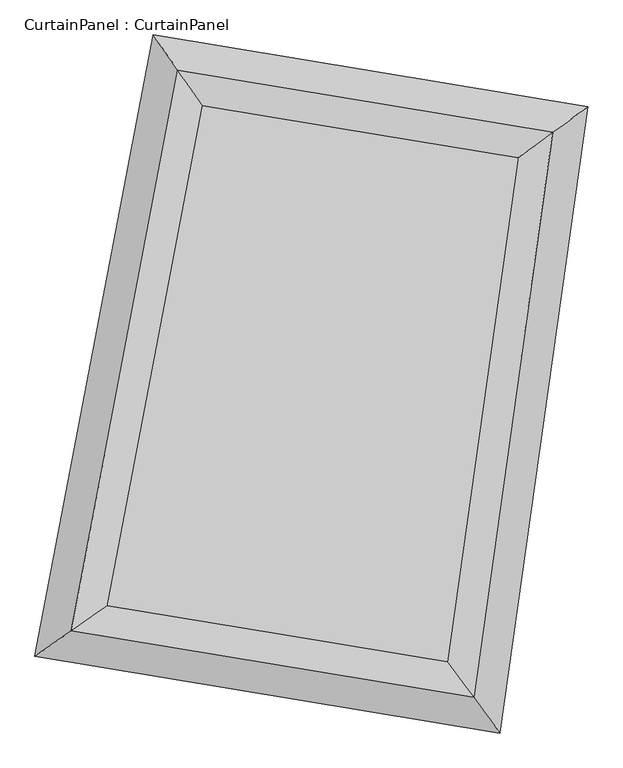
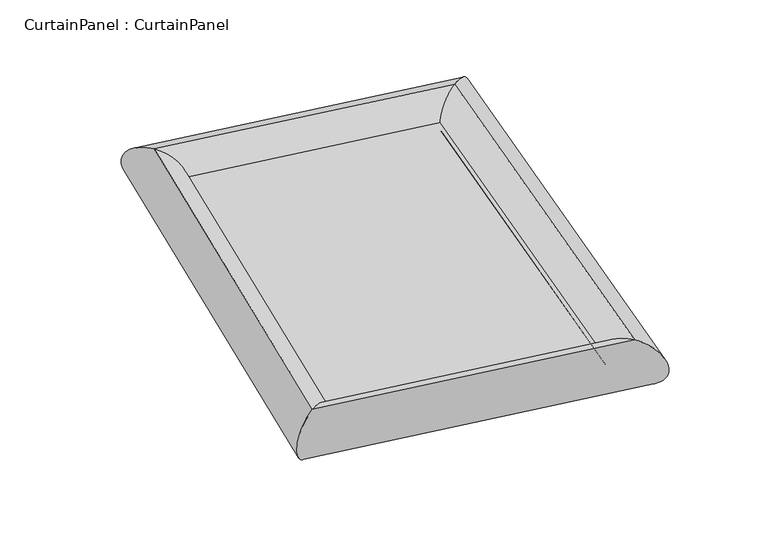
"""IFC4 building model written with IfcOpenShell, lengths in millimetres: plate geometry, CurtainPanel : CurtainPanel."""

from ifc_helpers import new_model, si_unit, frame, origin, origin_with_axes, place, context, project, spatial, polyline, ellipse_curve, outline, extrude, source, transform, mapped, element, save
from ifc_brep_helpers import cylinder_surface, advanced_brep


def curtainpanel_curtainpanel_77f478ed(model_context):
    return source(origin(), model_context, "Body", "SolidModel", [
        extrude(outline(polyline([(2807.7083793, 2807.7083793), (3566.8230241, 6794.0544448), (6238.7414337, 6352.4155981), (5674.7271629, 2333.8215778), (2807.7083793, 2807.7083793)])), origin_with_axes(), (0.0, 0.0, 1.0), 20.0),
        advanced_brep(
        [(2807.7083793, 2807.7083793, -220.0), (2807.7083793, 2807.7083793, 220.0), (5674.7271629, 2333.8215778, 220.0), (5674.7271629, 2333.8215778, -220.0), (6238.7414337, 6352.4155981, 220.0), (6238.7414337, 6352.4155981, -220.0), (3566.8230241, 6794.0544448, 220.0), (3566.8230241, 6794.0544448, -220.0)],
        [
            (0, 1, ellipse_curve(frame((2807.7083793, 2807.7083793, 0.0), z_axis=(0.572380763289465, -0.8199879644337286, 0.0), x_axis=(-0.8199879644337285, -0.572380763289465, 0.0)), 314.9880304, 220.0)),
            (1, 2),
            (2, 3, ellipse_curve(frame((5674.7271629, 2333.8215778, 0.0), z_axis=(-0.8057983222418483, -0.5921900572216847, 0.0), x_axis=(-0.5921900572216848, 0.8057983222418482, 0.0)), 314.9880304, 220.0)),
            (3, 0),
            (1, 0, ellipse_curve(frame((2807.7083793, 2807.7083793, 0.0), z_axis=(0.572380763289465, -0.8199879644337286, 0.0), x_axis=(-0.8199879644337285, -0.572380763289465, 0.0)), 314.9880304, 220.0)),
            (3, 2, ellipse_curve(frame((5674.7271629, 2333.8215778, 0.0), z_axis=(-0.8057983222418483, -0.5921900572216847, 0.0), x_axis=(-0.5921900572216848, 0.8057983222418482, 0.0)), 314.9880304, 220.0)),
            (2, 4),
            (4, 5, ellipse_curve(frame((6238.7414337, 6352.4155981, 0.0), z_axis=(0.5921900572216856, -0.8057983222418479, 0.0), x_axis=(-0.8057983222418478, -0.5921900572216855, 0.0)), 307.4045262, 220.0)),
            (5, 3),
            (5, 4, ellipse_curve(frame((6238.7414337, 6352.4155981, 0.0), z_axis=(0.5921900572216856, -0.8057983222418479, 0.0), x_axis=(-0.8057983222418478, -0.5921900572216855, 0.0)), 307.4045262, 220.0)),
            (4, 6),
            (6, 7, ellipse_curve(frame((3566.8230241, 6794.0544448, 0.0), z_axis=(0.8199879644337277, 0.5723807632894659, 0.0), x_axis=(0.5723807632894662, -0.8199879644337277, 0.0)), 307.4045262, 220.0)),
            (7, 5),
            (7, 6, ellipse_curve(frame((3566.8230241, 6794.0544448, 0.0), z_axis=(0.8199879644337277, 0.5723807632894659, 0.0), x_axis=(0.5723807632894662, -0.8199879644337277, 0.0)), 307.4045262, 220.0)),
            (6, 1),
            (0, 7),
        ],
        [
            cylinder_surface(frame((2807.7083793, 2807.7083793, 0.0), z_axis=(-0.9866134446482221, 0.1630763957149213, 0.0), x_axis=(0.1630763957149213, 0.9866134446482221, 0.0)), 220.0),
            cylinder_surface(frame((5674.7271629, 2333.8215778, 0.0), z_axis=(-0.13898888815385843, -0.9902939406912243, 0.0), x_axis=(-0.9902939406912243, 0.13898888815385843, 0.0)), 220.0),
            cylinder_surface(frame((6238.7414337, 6352.4155981, 0.0), z_axis=(0.9866134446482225, -0.16307639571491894, 0.0), x_axis=(-0.16307639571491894, -0.9866134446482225, 0.0)), 220.0),
            cylinder_surface(frame((3566.8230241, 6794.0544448, 0.0), z_axis=(0.18706707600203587, 0.9823471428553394, 0.0), x_axis=(0.9823471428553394, -0.18706707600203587, 0.0)), 220.0),
        ],
        [
            (0, [[1, 2, 3, 4]]),
            (0, [[5, -4, 6, -2]]),
            (1, [[-3, 7, 8, 9]]),
            (1, [[-6, -9, 10, -7]]),
            (2, [[-8, 11, 12, 13]]),
            (2, [[-10, -13, 14, -11]]),
            (3, [[-12, 15, -1, 16]]),
            (3, [[-14, -16, -5, -15]]),
        ],
    ),
    ])


if __name__ == "__main__":
    model = new_model("IFC4")
    model_context = context("Model", 3, world=origin())
    ifc_project = project(units=[si_unit("LENGTHUNIT", "METRE", prefix="MILLI")], contexts=[model_context])
    site = spatial("IfcSite", under=ifc_project)
    building = spatial("IfcBuilding", under=site)
    placement = place(None, origin())
    curtainpanel_curtainpanel_shape = curtainpanel_curtainpanel_77f478ed(model_context)
    element("IfcPlate", 1, ObjectType="CurtainPanel : CurtainPanel", at=placement, inside=building, context=model_context, shape_type="MappedRepresentation", body=[
        mapped(curtainpanel_curtainpanel_shape, transform((0.0, 0.0, 0.0), x_axis=(1.0, 0.0, 0.0), y_axis=(0.0, 1.0, 0.0), z_axis=(0.0, 0.0, 1.0))),
    ])
    save(model, "model.ifc")
